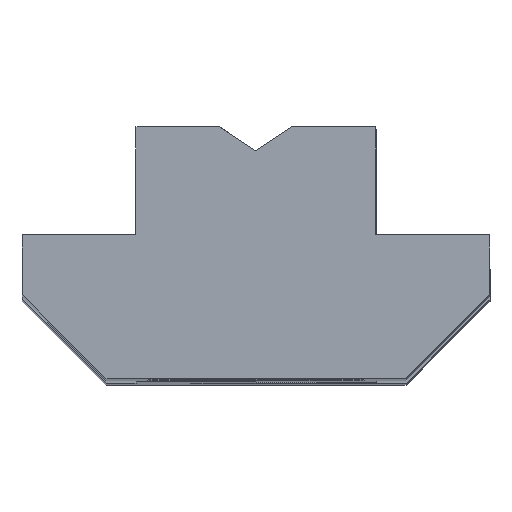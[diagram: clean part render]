
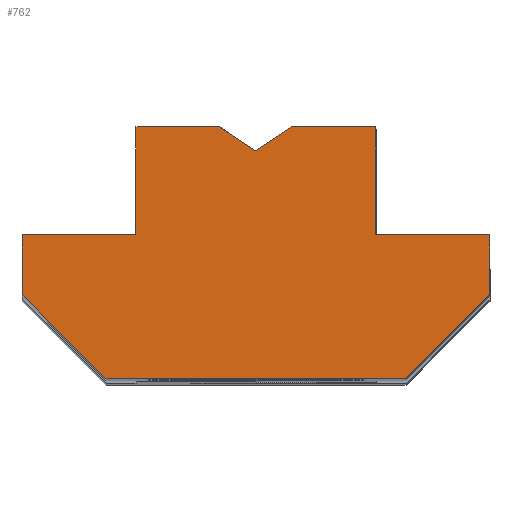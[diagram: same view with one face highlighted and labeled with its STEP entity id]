
A CAD part, top view. The second image highlights one B-rep face of the part: STEP entity #762.
In plain terms, the highlighted planar face has unit normal (0, 0, 1) as drawn and (0, 0, -1) by its records, which use the part's own axes.
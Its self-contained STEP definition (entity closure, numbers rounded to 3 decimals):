
#24 = DIRECTION ( 'NONE',  ( -1., 0., 0. ) ) ;
#32 = AXIS2_PLACEMENT_3D ( 'NONE', #163, #714, #1626 ) ;
#45 = EDGE_CURVE ( 'NONE', #1128, #1642, #1345, .T. ) ;
#58 = ORIENTED_EDGE ( 'NONE', *, *, #288, .T. ) ;
#59 = LINE ( 'NONE', #1228, #1442 ) ;
#65 = VERTEX_POINT ( 'NONE', #583 ) ;
#72 = DIRECTION ( 'NONE',  ( 1., 0., 0. ) ) ;
#79 = ORIENTED_EDGE ( 'NONE', *, *, #1724, .F. ) ;
#163 = CARTESIAN_POINT ( 'NONE',  ( 0., 0., 0. ) ) ;
#190 = CARTESIAN_POINT ( 'NONE',  ( -7.964, 2.183, 0. ) ) ;
#202 = DIRECTION ( 'NONE',  ( -1., 0., 0. ) ) ;
#217 = EDGE_CURVE ( 'NONE', #65, #1699, #230, .T. ) ;
#230 = LINE ( 'NONE', #746, #1598 ) ;
#235 = CARTESIAN_POINT ( 'NONE',  ( -1.714, -7.317, 0. ) ) ;
#241 = VECTOR ( 'NONE', #72, 1000. ) ;
#252 = VERTEX_POINT ( 'NONE', #190 ) ;
#262 = CARTESIAN_POINT ( 'NONE',  ( 1.786, -3.817, 0. ) ) ;
#267 = VECTOR ( 'NONE', #556, 1000. ) ;
#288 = EDGE_CURVE ( 'NONE', #879, #1589, #749, .T. ) ;
#296 = CARTESIAN_POINT ( 'NONE',  ( -2.964, -1.317, 0. ) ) ;
#309 = DIRECTION ( 'NONE',  ( -0.832, 0.555, 0. ) ) ;
#316 = LINE ( 'NONE', #1497, #646 ) ;
#332 = DIRECTION ( 'NONE',  ( 0., -1., 0. ) ) ;
#349 = DIRECTION ( 'NONE',  ( 1., 0., 0. ) ) ;
#411 = ORIENTED_EDGE ( 'NONE', *, *, #750, .F. ) ;
#430 = VECTOR ( 'NONE', #24, 1000. ) ;
#438 = CARTESIAN_POINT ( 'NONE',  ( -9.464, 3.183, 0. ) ) ;
#443 = EDGE_CURVE ( 'NONE', #1200, #65, #1657, .T. ) ;
#481 = EDGE_CURVE ( 'NONE', #1317, #878, #1358, .T. ) ;
#482 = CARTESIAN_POINT ( 'NONE',  ( -12.964, 3.183, 0. ) ) ;
#546 = VECTOR ( 'NONE', #1452, 1000. ) ;
#553 = ORIENTED_EDGE ( 'NONE', *, *, #615, .T. ) ;
#556 = DIRECTION ( 'NONE',  ( -0.707, -0.707, 0. ) ) ;
#581 = PLANE ( 'NONE',  #32 ) ;
#582 = DIRECTION ( 'NONE',  ( 0., -1., 0. ) ) ;
#583 = CARTESIAN_POINT ( 'NONE',  ( 1.786, -1.317, 0. ) ) ;
#589 = CARTESIAN_POINT ( 'NONE',  ( -17.714, -1.317, 0. ) ) ;
#615 = EDGE_CURVE ( 'NONE', #1446, #1200, #781, .T. ) ;
#646 = VECTOR ( 'NONE', #1226, 1000. ) ;
#649 = LINE ( 'NONE', #1243, #430 ) ;
#665 = DIRECTION ( 'NONE',  ( 1., 0., 0. ) ) ;
#714 = DIRECTION ( 'NONE',  ( 0., 0., -1. ) ) ;
#722 = VECTOR ( 'NONE', #582, 1000. ) ;
#723 = VERTEX_POINT ( 'NONE', #438 ) ;
#746 = CARTESIAN_POINT ( 'NONE',  ( 1.786, -1.317, 0. ) ) ;
#749 = LINE ( 'NONE', #870, #1552 ) ;
#750 = EDGE_CURVE ( 'NONE', #252, #723, #59, .T. ) ;
#760 = EDGE_CURVE ( 'NONE', #878, #1128, #649, .T. ) ;
#762 = ADVANCED_FACE ( 'NONE', ( #1093 ), #581, .T. ) ;
#768 = DIRECTION ( 'NONE',  ( -0.832, -0.555, 0. ) ) ;
#781 = LINE ( 'NONE', #1460, #546 ) ;
#868 = CARTESIAN_POINT ( 'NONE',  ( -6.464, 3.183, 0. ) ) ;
#870 = CARTESIAN_POINT ( 'NONE',  ( -1.714, -7.317, 0. ) ) ;
#878 = VERTEX_POINT ( 'NONE', #1056 ) ;
#879 = VERTEX_POINT ( 'NONE', #235 ) ;
#914 = LINE ( 'NONE', #868, #1400 ) ;
#1028 = EDGE_CURVE ( 'NONE', #1675, #1446, #1214, .T. ) ;
#1056 = CARTESIAN_POINT ( 'NONE',  ( -12.964, -1.317, 0. ) ) ;
#1091 = CARTESIAN_POINT ( 'NONE',  ( -17.714, -1.317, 0. ) ) ;
#1093 = FACE_OUTER_BOUND ( 'NONE', #1102, .T. ) ;
#1102 = EDGE_LOOP ( 'NONE', ( #411, #1423, #1343, #553, #1262, #1363, #1144, #58, #79, #1450, #1593, #1240, #1618 ) ) ;
#1113 = CARTESIAN_POINT ( 'NONE',  ( -12.964, 3.183, 0. ) ) ;
#1128 = VERTEX_POINT ( 'NONE', #1091 ) ;
#1144 = ORIENTED_EDGE ( 'NONE', *, *, #1693, .T. ) ;
#1200 = VERTEX_POINT ( 'NONE', #1537 ) ;
#1214 = LINE ( 'NONE', #1318, #1417 ) ;
#1226 = DIRECTION ( 'NONE',  ( 0.707, -0.707, 0. ) ) ;
#1228 = CARTESIAN_POINT ( 'NONE',  ( -7.964, 2.183, 0. ) ) ;
#1240 = ORIENTED_EDGE ( 'NONE', *, *, #481, .F. ) ;
#1243 = CARTESIAN_POINT ( 'NONE',  ( -12.964, -1.317, 0. ) ) ;
#1262 = ORIENTED_EDGE ( 'NONE', *, *, #443, .T. ) ;
#1286 = CARTESIAN_POINT ( 'NONE',  ( -12.964, 3.183, 0. ) ) ;
#1308 = EDGE_CURVE ( 'NONE', #1675, #252, #914, .T. ) ;
#1311 = LINE ( 'NONE', #1286, #241 ) ;
#1317 = VERTEX_POINT ( 'NONE', #482 ) ;
#1318 = CARTESIAN_POINT ( 'NONE',  ( -12.964, 3.183, 0. ) ) ;
#1323 = VECTOR ( 'NONE', #1645, 1000. ) ;
#1337 = VECTOR ( 'NONE', #665, 1000. ) ;
#1339 = CARTESIAN_POINT ( 'NONE',  ( 1.786, -3.817, 0. ) ) ;
#1343 = ORIENTED_EDGE ( 'NONE', *, *, #1028, .T. ) ;
#1345 = LINE ( 'NONE', #589, #1323 ) ;
#1346 = CARTESIAN_POINT ( 'NONE',  ( -17.714, -3.817, 0. ) ) ;
#1358 = LINE ( 'NONE', #1113, #722 ) ;
#1363 = ORIENTED_EDGE ( 'NONE', *, *, #217, .T. ) ;
#1371 = EDGE_CURVE ( 'NONE', #1317, #723, #1311, .T. ) ;
#1400 = VECTOR ( 'NONE', #768, 1000. ) ;
#1417 = VECTOR ( 'NONE', #349, 1000. ) ;
#1423 = ORIENTED_EDGE ( 'NONE', *, *, #1308, .F. ) ;
#1442 = VECTOR ( 'NONE', #309, 1000. ) ;
#1446 = VERTEX_POINT ( 'NONE', #1569 ) ;
#1450 = ORIENTED_EDGE ( 'NONE', *, *, #45, .F. ) ;
#1452 = DIRECTION ( 'NONE',  ( 0., -1., 0. ) ) ;
#1460 = CARTESIAN_POINT ( 'NONE',  ( -2.964, 3.183, 0. ) ) ;
#1488 = CARTESIAN_POINT ( 'NONE',  ( -14.214, -7.317, 0. ) ) ;
#1497 = CARTESIAN_POINT ( 'NONE',  ( -17.714, -3.817, 0. ) ) ;
#1537 = CARTESIAN_POINT ( 'NONE',  ( -2.964, -1.317, 0. ) ) ;
#1552 = VECTOR ( 'NONE', #202, 1000. ) ;
#1569 = CARTESIAN_POINT ( 'NONE',  ( -2.964, 3.183, 0. ) ) ;
#1589 = VERTEX_POINT ( 'NONE', #1488 ) ;
#1593 = ORIENTED_EDGE ( 'NONE', *, *, #760, .F. ) ;
#1598 = VECTOR ( 'NONE', #332, 1000. ) ;
#1602 = CARTESIAN_POINT ( 'NONE',  ( -6.464, 3.183, 0. ) ) ;
#1618 = ORIENTED_EDGE ( 'NONE', *, *, #1371, .T. ) ;
#1626 = DIRECTION ( 'NONE',  ( -1., 0., 0. ) ) ;
#1642 = VERTEX_POINT ( 'NONE', #1346 ) ;
#1645 = DIRECTION ( 'NONE',  ( 0., -1., 0. ) ) ;
#1657 = LINE ( 'NONE', #296, #1337 ) ;
#1675 = VERTEX_POINT ( 'NONE', #1602 ) ;
#1690 = LINE ( 'NONE', #1339, #267 ) ;
#1693 = EDGE_CURVE ( 'NONE', #1699, #879, #1690, .T. ) ;
#1699 = VERTEX_POINT ( 'NONE', #262 ) ;
#1724 = EDGE_CURVE ( 'NONE', #1642, #1589, #316, .T. ) ;
